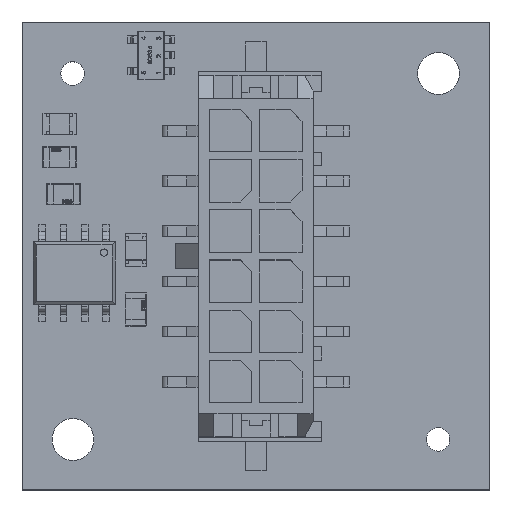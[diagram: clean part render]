
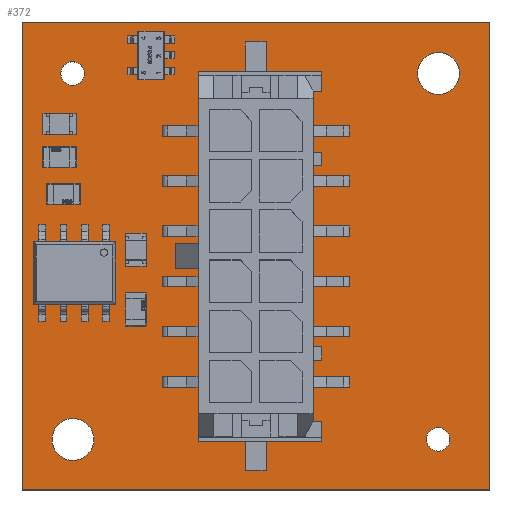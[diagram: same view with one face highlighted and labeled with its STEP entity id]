
A CAD part, top view. The second image highlights one B-rep face of the part: STEP entity #372.
In plain terms, the highlighted planar face has unit normal (0, 0, 1).
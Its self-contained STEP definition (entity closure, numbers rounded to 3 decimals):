
#99 = VERTEX_POINT('',#100);
#100 = CARTESIAN_POINT('',(0.,0.,0.));
#106 = EDGE_CURVE('',#99,#107,#109,.T.);
#107 = VERTEX_POINT('',#108);
#108 = CARTESIAN_POINT('',(0.,28.,0.));
#109 = LINE('',#110,#111);
#110 = CARTESIAN_POINT('',(0.,0.,0.));
#111 = VECTOR('',#112,1.);
#112 = DIRECTION('',(0.,1.,0.));
#137 = EDGE_CURVE('',#107,#138,#140,.T.);
#138 = VERTEX_POINT('',#139);
#139 = CARTESIAN_POINT('',(28.,28.,0.));
#140 = LINE('',#141,#142);
#141 = CARTESIAN_POINT('',(0.,28.,0.));
#142 = VECTOR('',#143,1.);
#143 = DIRECTION('',(1.,0.,0.));
#168 = EDGE_CURVE('',#138,#169,#171,.T.);
#169 = VERTEX_POINT('',#170);
#170 = CARTESIAN_POINT('',(28.,0.,0.));
#171 = LINE('',#172,#173);
#172 = CARTESIAN_POINT('',(28.,28.,0.));
#173 = VECTOR('',#174,1.);
#174 = DIRECTION('',(0.,-1.,0.));
#199 = EDGE_CURVE('',#169,#99,#200,.T.);
#200 = LINE('',#201,#202);
#201 = CARTESIAN_POINT('',(28.,0.,0.));
#202 = VECTOR('',#203,1.);
#203 = DIRECTION('',(-1.,0.,0.));
#223 = VERTEX_POINT('',#224);
#224 = CARTESIAN_POINT('',(4.298,3.023,0.));
#230 = EDGE_CURVE('',#223,#223,#231,.T.);
#231 = CIRCLE('',#232,1.25);
#232 = AXIS2_PLACEMENT_3D('',#233,#234,#235);
#233 = CARTESIAN_POINT('',(3.048,3.023,0.));
#234 = DIRECTION('',(0.,0.,1.));
#235 = DIRECTION('',(1.,0.,0.));
#256 = VERTEX_POINT('',#257);
#257 = CARTESIAN_POINT('',(3.723,24.917,0.));
#263 = EDGE_CURVE('',#256,#256,#264,.T.);
#264 = CIRCLE('',#265,0.7);
#265 = AXIS2_PLACEMENT_3D('',#266,#267,#268);
#266 = CARTESIAN_POINT('',(3.023,24.917,0.));
#267 = DIRECTION('',(0.,0.,1.));
#268 = DIRECTION('',(1.,0.,0.));
#289 = VERTEX_POINT('',#290);
#290 = CARTESIAN_POINT('',(25.592,3.023,0.));
#296 = EDGE_CURVE('',#289,#289,#297,.T.);
#297 = CIRCLE('',#298,0.7);
#298 = AXIS2_PLACEMENT_3D('',#299,#300,#301);
#299 = CARTESIAN_POINT('',(24.892,3.023,0.));
#300 = DIRECTION('',(0.,0.,1.));
#301 = DIRECTION('',(1.,0.,0.));
#322 = VERTEX_POINT('',#323);
#323 = CARTESIAN_POINT('',(26.167,24.917,0.));
#329 = EDGE_CURVE('',#322,#322,#330,.T.);
#330 = CIRCLE('',#331,1.25);
#331 = AXIS2_PLACEMENT_3D('',#332,#333,#334);
#332 = CARTESIAN_POINT('',(24.917,24.917,0.));
#333 = DIRECTION('',(0.,0.,1.));
#334 = DIRECTION('',(1.,0.,0.));
#372 = ADVANCED_FACE('',(#373,#379,#382,#385,#388),#391,.T.);
#373 = FACE_BOUND('',#374,.F.);
#374 = EDGE_LOOP('',(#375,#376,#377,#378));
#375 = ORIENTED_EDGE('',*,*,#106,.T.);
#376 = ORIENTED_EDGE('',*,*,#137,.T.);
#377 = ORIENTED_EDGE('',*,*,#168,.T.);
#378 = ORIENTED_EDGE('',*,*,#199,.T.);
#379 = FACE_BOUND('',#380,.T.);
#380 = EDGE_LOOP('',(#381));
#381 = ORIENTED_EDGE('',*,*,#230,.F.);
#382 = FACE_BOUND('',#383,.T.);
#383 = EDGE_LOOP('',(#384));
#384 = ORIENTED_EDGE('',*,*,#263,.F.);
#385 = FACE_BOUND('',#386,.T.);
#386 = EDGE_LOOP('',(#387));
#387 = ORIENTED_EDGE('',*,*,#296,.F.);
#388 = FACE_BOUND('',#389,.T.);
#389 = EDGE_LOOP('',(#390));
#390 = ORIENTED_EDGE('',*,*,#329,.F.);
#391 = PLANE('',#392);
#392 = AXIS2_PLACEMENT_3D('',#393,#394,#395);
#393 = CARTESIAN_POINT('',(0.,0.,0.));
#394 = DIRECTION('',(0.,0.,1.));
#395 = DIRECTION('',(1.,0.,0.));
